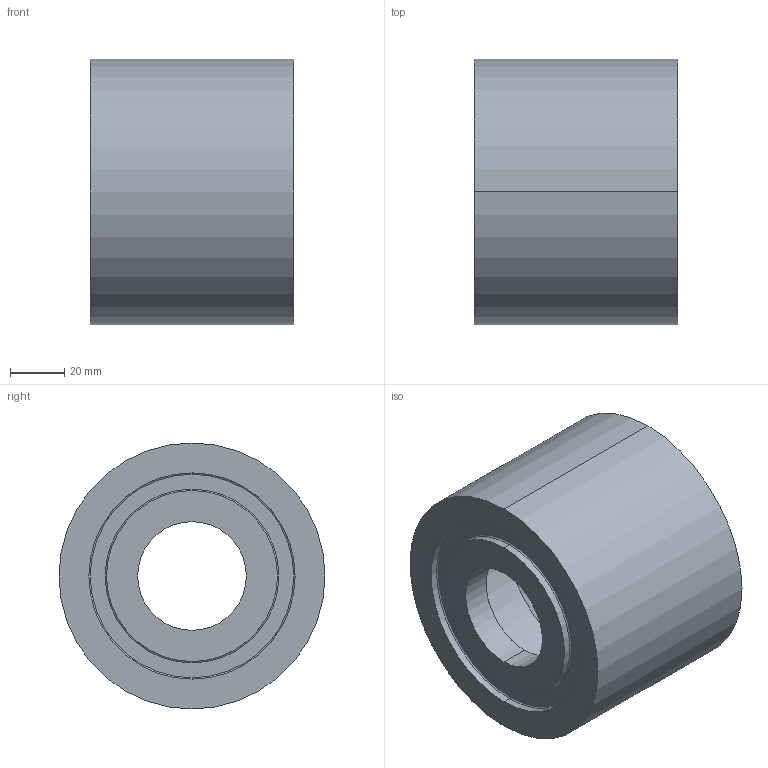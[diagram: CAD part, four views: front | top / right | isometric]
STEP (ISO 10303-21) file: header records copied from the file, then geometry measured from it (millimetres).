
FILE_DESCRIPTION (( 'STEP AP214' ), '1' );
FILE_NAME ('RVZ3139xD14A5A05500_DN 40_DIN-RR-Nut_PS40.STEP', '2009-11-10T13:38:32', ( 'Eckhard Grams' ), ( 'AWP Kälte Klima Armaturen GmbH' ), 'SwSTEP 2.0', 'SolidWorks 2002296', '' );
FILE_SCHEMA (( 'AUTOMOTIVE_DESIGN' ));
Length unit declared in the file: millimetre
Products named in the file (2): RVZ3139xD14A5A05500_DN 40_DIN-RR-Nut_PS40; Geh 31391K14-5034xx4_DN40_PS63_Geh 31391K14-5034554 RR-Nut
Assembly tree (1 placements, depth 2):
  RVZ3139xD14A5A05500_DN 40_DIN-RR-Nut_PS40
    Geh 31391K14-5034xx4_DN40_PS63_Geh 31391K14-5034554 RR-Nut
Bounding box: 75 x 98 x 98 mm (x, y, z)
Volume: 302031.6 mm3; surface area: 57573.7 mm2
Topology: 1 solids, 1 shells, 51 faces, 102 edges, 62 vertices
Faces by surface type: cylinder 26, torus 12, plane 11, cone 2
Entity records: 1427 total; most frequent: DIRECTION 286, CARTESIAN_POINT 219, ORIENTED_EDGE 204, AXIS2_PLACEMENT_3D 129, EDGE_CURVE 102, CIRCLE 74, EDGE_LOOP 62, VERTEX_POINT 62
